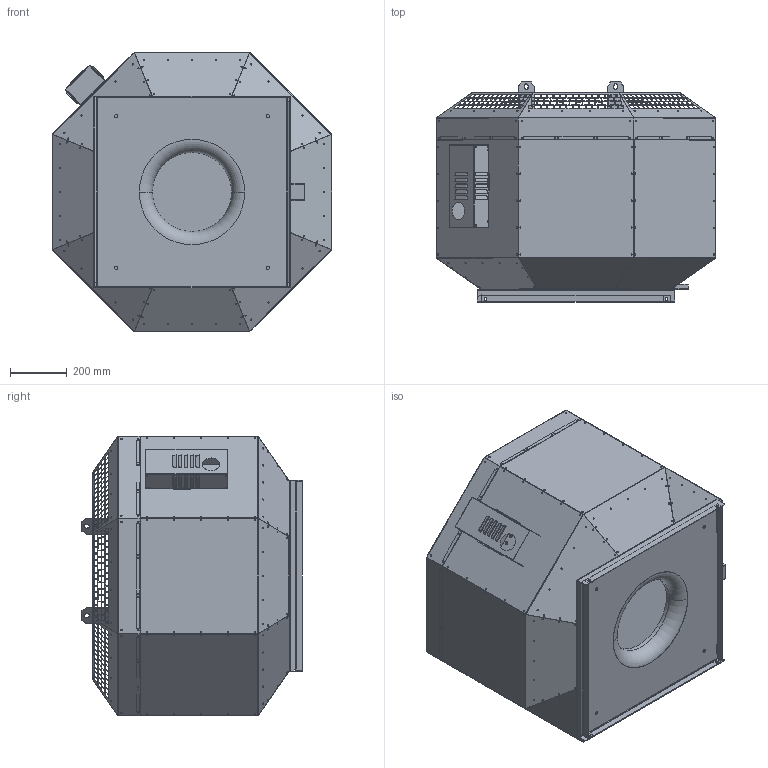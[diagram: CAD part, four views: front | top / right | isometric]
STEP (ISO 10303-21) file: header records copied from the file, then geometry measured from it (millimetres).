
FILE_DESCRIPTION (( 'STEP AP203' ), '1' );
FILE_NAME ('145041-00_DVNI450D430_step.step', '2018-07-31T06:03:24', ( '' ), ( '' ), 'SwSTEP 2.0', 'SolidWorks 2017', '' );
FILE_SCHEMA (( 'CONFIG_CONTROL_DESIGN' ));
Products named in the file (1): 145041-00_DVNI450D430_step
Bounding box: 984.02 x 776.12 x 984.02 mm (x, y, z)
Surface area: 6910139.1 mm2 (no closed solid volume)
Topology: 0 solids, 45 shells, 1725 faces, 11543 edges, 9294 vertices
Faces by surface type: plane 1412, cylinder 253, bspline 58, torus 2
Entity records: 129193 total; most frequent: CARTESIAN_POINT 41697, DIRECTION 16056, ORIENTED_EDGE 14751, EDGE_CURVE 11543, LINE 9566, VECTOR 9566, VERTEX_POINT 9294, EDGE_LOOP 3969
